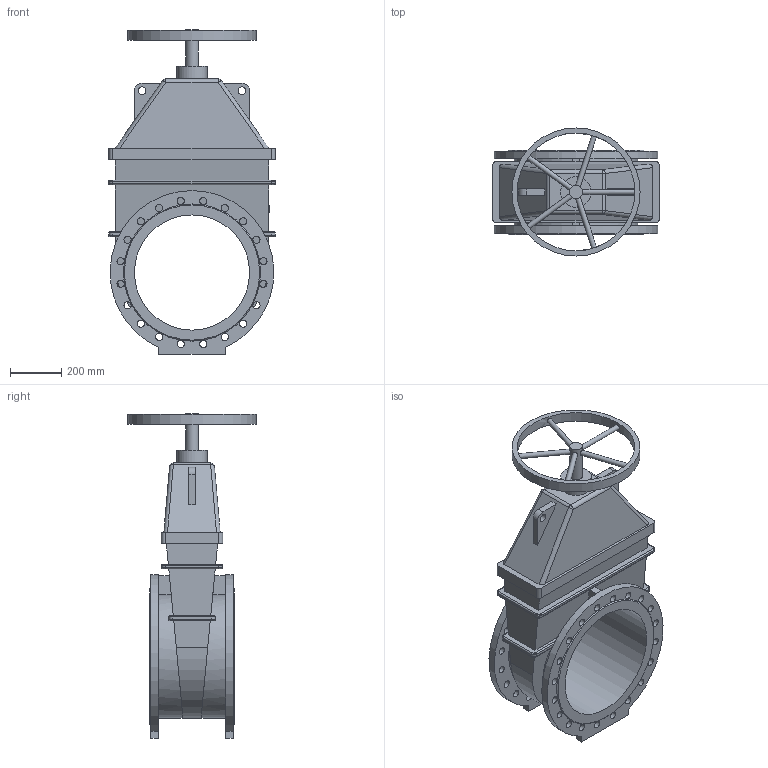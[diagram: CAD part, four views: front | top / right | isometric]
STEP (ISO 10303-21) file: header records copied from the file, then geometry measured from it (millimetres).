
FILE_DESCRIPTION(('STEP AP203'), '1');
FILE_NAME('Çàäâèæêà 47GV DN450 PN10_L330 ñ ìàõîâèêîì', '', ('UNSPECIFIED'), ('UNSPECIFIED'), 'ASCON STEP Converter 1.6', 'ASCON Math Kernel', '');
FILE_SCHEMA(('CONFIG_CONTROL_DESIGN'));
Length unit declared in the file: millimetre
Bounding box: 650 x 500 x 1269 mm (x, y, z)
Volume: 80422659.1 mm3; surface area: 3047270.2 mm2
Topology: 1 solids, 1 shells, 211 faces, 537 edges, 340 vertices
Faces by surface type: cylinder 107, plane 82, bspline 12, torus 8, cone 2
Full cylindrical faces by diameter (mm): 20 x5, 28 x40, 30 x2, 50 x1, 120 x1, 450 x1, 460 x1, 500 x1
Entity records: 10303 total; most frequent: CARTESIAN_POINT 3528, DIRECTION 1020, ORIENTED_EDGE 956, EDGE_CURVE 478, AXIS2_PLACEMENT_3D 394, EDGE_LOOP 378, VERTEX_POINT 340, FACE_BOUND 271
